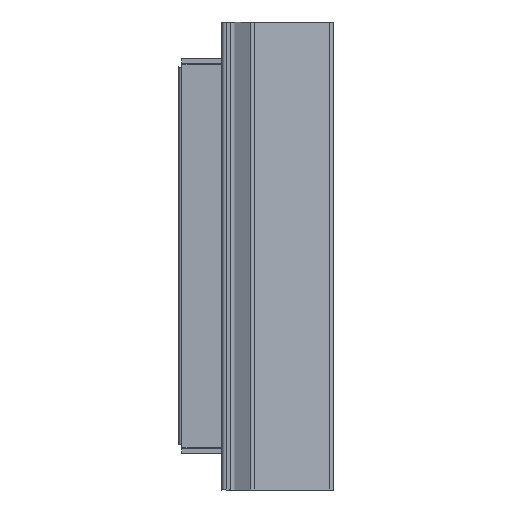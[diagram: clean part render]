
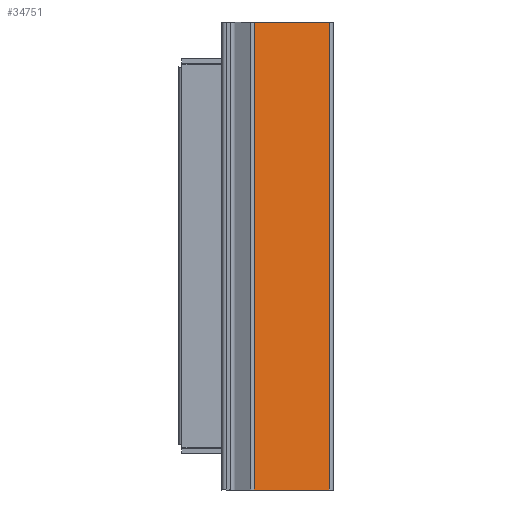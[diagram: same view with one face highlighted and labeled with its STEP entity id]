
A CAD part, front view. The second image highlights one B-rep face of the part: STEP entity #34751.
In plain terms, the highlighted planar face has unit normal (0.174, -0.985, 0) as drawn and (-0.174, -0.985, 0) by its records, which use the part's own axes.
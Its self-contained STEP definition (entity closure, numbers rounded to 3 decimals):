
#599 = CARTESIAN_POINT ( 'NONE',  ( -84., -7., 130. ) ) ;
#670 = EDGE_CURVE ( 'NONE', #20399, #30600, #33762, .T. ) ;
#955 = EDGE_CURVE ( 'NONE', #36714, #20399, #26912, .T. ) ;
#1641 = CARTESIAN_POINT ( 'NONE',  ( -40.06, -14.748, 130. ) ) ;
#3680 = LINE ( 'NONE', #32059, #5808 ) ;
#4711 = CARTESIAN_POINT ( 'NONE',  ( -81.934, -7.364, -130. ) ) ;
#5145 = CARTESIAN_POINT ( 'NONE',  ( -81.934, -7.364, 130. ) ) ;
#5808 = VECTOR ( 'NONE', #25299, 1000. ) ;
#8132 = VECTOR ( 'NONE', #8952, 1000. ) ;
#8952 = DIRECTION ( 'NONE',  ( 0., 0., -1. ) ) ;
#12919 = EDGE_CURVE ( 'NONE', #30600, #36402, #3680, .T. ) ;
#13622 = DIRECTION ( 'NONE',  ( 0.985, -0.174, 0. ) ) ;
#14343 = FACE_OUTER_BOUND ( 'NONE', #21774, .T. ) ;
#14361 = DIRECTION ( 'NONE',  ( -0.985, 0.174, 0. ) ) ;
#15694 = ORIENTED_EDGE ( 'NONE', *, *, #28017, .F. ) ;
#17302 = CARTESIAN_POINT ( 'NONE',  ( -40.06, -14.748, -130. ) ) ;
#19894 = DIRECTION ( 'NONE',  ( 0.985, -0.174, 0. ) ) ;
#20173 = CARTESIAN_POINT ( 'NONE',  ( -84., -7., -130. ) ) ;
#20399 = VERTEX_POINT ( 'NONE', #4711 ) ;
#20718 = ORIENTED_EDGE ( 'NONE', *, *, #12919, .T. ) ;
#21538 = LINE ( 'NONE', #599, #33053 ) ;
#21774 = EDGE_LOOP ( 'NONE', ( #35918, #20718, #15694, #28523 ) ) ;
#23999 = CARTESIAN_POINT ( 'NONE',  ( -84., -7., 130. ) ) ;
#25299 = DIRECTION ( 'NONE',  ( 0., 0., 1. ) ) ;
#26912 = LINE ( 'NONE', #42293, #8132 ) ;
#28017 = EDGE_CURVE ( 'NONE', #36714, #36402, #21538, .T. ) ;
#28523 = ORIENTED_EDGE ( 'NONE', *, *, #955, .T. ) ;
#30600 = VERTEX_POINT ( 'NONE', #17302 ) ;
#32059 = CARTESIAN_POINT ( 'NONE',  ( -40.06, -14.748, 130. ) ) ;
#32205 = VECTOR ( 'NONE', #19894, 1000. ) ;
#32471 = AXIS2_PLACEMENT_3D ( 'NONE', #23999, #40698, #14361 ) ;
#33053 = VECTOR ( 'NONE', #13622, 1000. ) ;
#33762 = LINE ( 'NONE', #20173, #32205 ) ;
#34751 = ADVANCED_FACE ( 'NONE', ( #14343 ), #41145, .F. ) ;
#35918 = ORIENTED_EDGE ( 'NONE', *, *, #670, .T. ) ;
#36402 = VERTEX_POINT ( 'NONE', #1641 ) ;
#36714 = VERTEX_POINT ( 'NONE', #5145 ) ;
#40698 = DIRECTION ( 'NONE',  ( 0.174, 0.985, 0. ) ) ;
#41145 = PLANE ( 'NONE',  #32471 ) ;
#42293 = CARTESIAN_POINT ( 'NONE',  ( -81.934, -7.364, 130. ) ) ;
